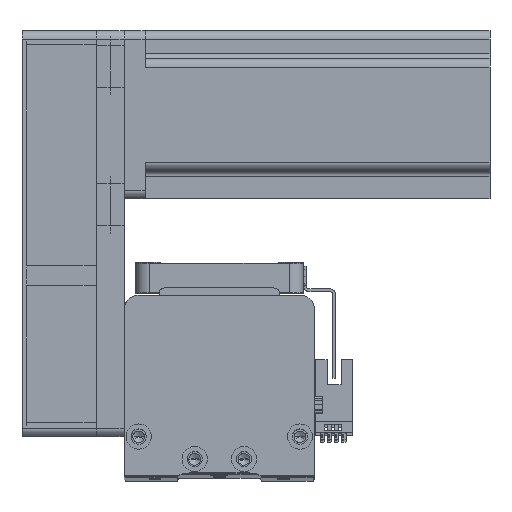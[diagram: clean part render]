
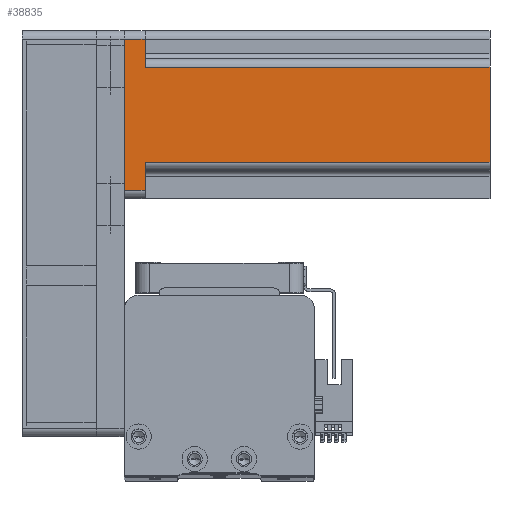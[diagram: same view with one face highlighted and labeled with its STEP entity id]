
A CAD part, top view. The second image highlights one B-rep face of the part: STEP entity #38835.
In plain terms, the highlighted planar face has unit normal (0, 0, 1) as drawn and (0, 1, 0) by its records, which use the part's own axes.
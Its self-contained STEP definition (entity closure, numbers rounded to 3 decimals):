
#208 = VECTOR ( 'NONE', #6576, 1000. ) ;
#745 = VECTOR ( 'NONE', #5660, 1000. ) ;
#955 = CARTESIAN_POINT ( 'NONE',  ( 17., 30., 7.5 ) ) ;
#2557 = EDGE_CURVE ( 'NONE', #32959, #11616, #6303, .T. ) ;
#4509 = LINE ( 'NONE', #10905, #43040 ) ;
#5660 = DIRECTION ( 'NONE',  ( 0., 0., 1. ) ) ;
#6303 = LINE ( 'NONE', #7236, #34053 ) ;
#6342 = VERTEX_POINT ( 'NONE', #26610 ) ;
#6576 = DIRECTION ( 'NONE',  ( 1., 0., 0. ) ) ;
#7236 = CARTESIAN_POINT ( 'NONE',  ( 17., 30., 130.7 ) ) ;
#7483 = DIRECTION ( 'NONE',  ( 0., -1., 0. ) ) ;
#7958 = VERTEX_POINT ( 'NONE', #30201 ) ;
#8582 = ORIENTED_EDGE ( 'NONE', *, *, #27495, .T. ) ;
#8691 = VECTOR ( 'NONE', #42797, 1000. ) ;
#9900 = LINE ( 'NONE', #25196, #37657 ) ;
#10905 = CARTESIAN_POINT ( 'NONE',  ( 30., 30., 130.7 ) ) ;
#11007 = CARTESIAN_POINT ( 'NONE',  ( 27., 30., 7.5 ) ) ;
#11616 = VERTEX_POINT ( 'NONE', #955 ) ;
#11649 = ORIENTED_EDGE ( 'NONE', *, *, #46190, .T. ) ;
#12717 = ORIENTED_EDGE ( 'NONE', *, *, #13909, .F. ) ;
#13909 = EDGE_CURVE ( 'NONE', #14989, #11616, #37587, .T. ) ;
#14507 = EDGE_CURVE ( 'NONE', #7958, #15782, #35339, .T. ) ;
#14661 = ORIENTED_EDGE ( 'NONE', *, *, #37428, .T. ) ;
#14814 = DIRECTION ( 'NONE',  ( 0., 0., 1. ) ) ;
#14989 = VERTEX_POINT ( 'NONE', #11007 ) ;
#15708 = DIRECTION ( 'NONE',  ( 0., 0., -1. ) ) ;
#15782 = VERTEX_POINT ( 'NONE', #29248 ) ;
#20371 = EDGE_CURVE ( 'NONE', #15782, #42380, #38777, .T. ) ;
#21969 = ORIENTED_EDGE ( 'NONE', *, *, #20371, .T. ) ;
#24193 = ORIENTED_EDGE ( 'NONE', *, *, #29976, .F. ) ;
#25196 = CARTESIAN_POINT ( 'NONE',  ( 30., 30., 0. ) ) ;
#25318 = LINE ( 'NONE', #39184, #43507 ) ;
#25685 = VECTOR ( 'NONE', #14814, 1000. ) ;
#25856 = CARTESIAN_POINT ( 'NONE',  ( 17., 30., 130.7 ) ) ;
#26610 = CARTESIAN_POINT ( 'NONE',  ( -17., 30., 130.7 ) ) ;
#27318 = CARTESIAN_POINT ( 'NONE',  ( -17., 30., 130.7 ) ) ;
#27495 = EDGE_CURVE ( 'NONE', #14989, #46347, #25318, .T. ) ;
#28236 = CARTESIAN_POINT ( 'NONE',  ( -20., 30., 7.5 ) ) ;
#28472 = LINE ( 'NONE', #27318, #745 ) ;
#29158 = CARTESIAN_POINT ( 'NONE',  ( 30., 30., 130.7 ) ) ;
#29248 = CARTESIAN_POINT ( 'NONE',  ( -27., 30., 7.5 ) ) ;
#29976 = EDGE_CURVE ( 'NONE', #32959, #6342, #4509, .T. ) ;
#30201 = CARTESIAN_POINT ( 'NONE',  ( -27., 30., 0. ) ) ;
#30308 = EDGE_LOOP ( 'NONE', ( #21969, #14661, #24193, #38717, #12717, #8582, #11649, #36203 ) ) ;
#31217 = CARTESIAN_POINT ( 'NONE',  ( -17., 30., 7.5 ) ) ;
#31861 = CARTESIAN_POINT ( 'NONE',  ( 20., 30., 7.5 ) ) ;
#32711 = CARTESIAN_POINT ( 'NONE',  ( -27., 30., 130.7 ) ) ;
#32804 = DIRECTION ( 'NONE',  ( 1., 0., 0. ) ) ;
#32959 = VERTEX_POINT ( 'NONE', #25856 ) ;
#34053 = VECTOR ( 'NONE', #15708, 1000. ) ;
#35339 = LINE ( 'NONE', #32711, #25685 ) ;
#35451 = DIRECTION ( 'NONE',  ( 0., 0., -1. ) ) ;
#36177 = DIRECTION ( 'NONE',  ( -1., 0., 0. ) ) ;
#36203 = ORIENTED_EDGE ( 'NONE', *, *, #14507, .T. ) ;
#37428 = EDGE_CURVE ( 'NONE', #42380, #6342, #28472, .T. ) ;
#37587 = LINE ( 'NONE', #31861, #8691 ) ;
#37657 = VECTOR ( 'NONE', #39819, 1000. ) ;
#38717 = ORIENTED_EDGE ( 'NONE', *, *, #2557, .T. ) ;
#38777 = LINE ( 'NONE', #28236, #208 ) ;
#38835 = ADVANCED_FACE ( 'NONE', ( #39153 ), #39957, .F. ) ;
#39153 = FACE_OUTER_BOUND ( 'NONE', #30308, .T. ) ;
#39184 = CARTESIAN_POINT ( 'NONE',  ( 27., 30., 130.7 ) ) ;
#39819 = DIRECTION ( 'NONE',  ( -1., 0., 0. ) ) ;
#39957 = PLANE ( 'NONE',  #41396 ) ;
#41396 = AXIS2_PLACEMENT_3D ( 'NONE', #29158, #7483, #32804 ) ;
#42380 = VERTEX_POINT ( 'NONE', #31217 ) ;
#42797 = DIRECTION ( 'NONE',  ( -1., 0., 0. ) ) ;
#43040 = VECTOR ( 'NONE', #36177, 1000. ) ;
#43507 = VECTOR ( 'NONE', #35451, 1000. ) ;
#44265 = CARTESIAN_POINT ( 'NONE',  ( 27., 30., 0. ) ) ;
#46190 = EDGE_CURVE ( 'NONE', #46347, #7958, #9900, .T. ) ;
#46347 = VERTEX_POINT ( 'NONE', #44265 ) ;
